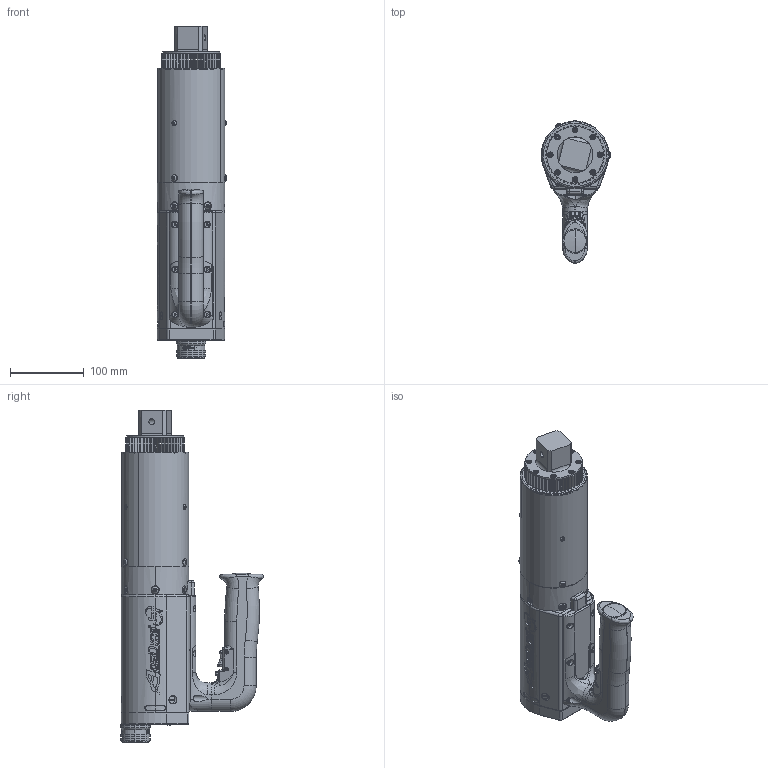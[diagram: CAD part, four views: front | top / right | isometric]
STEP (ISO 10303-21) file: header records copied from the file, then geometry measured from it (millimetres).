
FILE_DESCRIPTION (( 'STEP AP214' ), '1' );
FILE_NAME ('AEJ4B884200B, AEJ4W884650B, AEJ4W885000B.STEP', '2022-08-18T17:49:33', ( '' ), ( '' ), 'SwSTEP 2.0', 'SolidWorks 2022', '' );
FILE_SCHEMA (( 'AUTOMOTIVE_DESIGN' ));
Length unit declared in the file: inch
Products named in the file (1): AEJ4B884200B, AEJ4W884650B, AEJ4W885000B
Bounding box: 93.88 x 193.75 x 450.44 mm (x, y, z)
Surface area: 264233.5 mm2 (no closed solid volume)
Topology: 0 solids, 101 shells, 1442 faces, 5124 edges, 3681 vertices
Faces by surface type: cylinder 457, plane 370, bspline 339, torus 142, cone 124, sphere 10
Entity records: 90106 total; most frequent: CARTESIAN_POINT 32050, ORIENTED_EDGE 7870, DIRECTION 7154, EDGE_CURVE 5118, VERTEX_POINT 3681, AXIS2_PLACEMENT_3D 2630, VECTOR 1894, LINE 1894
